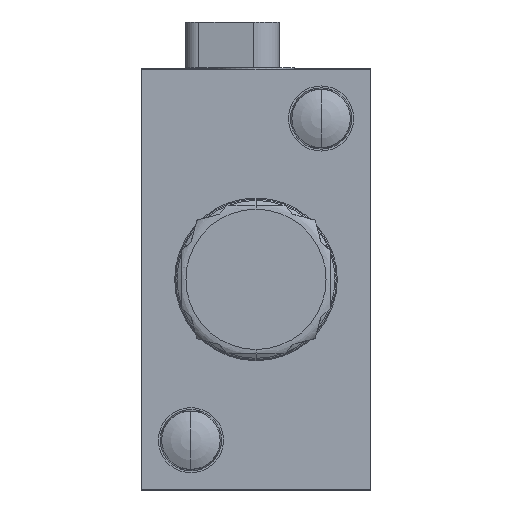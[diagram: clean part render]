
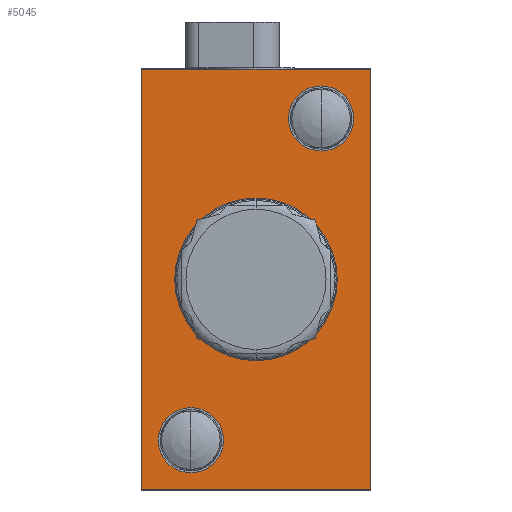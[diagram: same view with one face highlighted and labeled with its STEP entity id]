
A CAD part, front view. The second image highlights one B-rep face of the part: STEP entity #5045.
In plain terms, the highlighted planar face has unit normal (0, -1, 0).
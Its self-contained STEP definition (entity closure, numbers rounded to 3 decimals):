
#1552=DIRECTION('',(1.,0.,0.));
#1553=VECTOR('',#1552,29.8);
#1554=CARTESIAN_POINT('',(-14.9,-61.6,-27.4));
#1555=LINE('',#1554,#1553);
#1556=DIRECTION('',(0.,0.,-1.));
#1557=VECTOR('',#1556,54.8);
#1558=CARTESIAN_POINT('',(-14.9,-61.6,27.4));
#1559=LINE('',#1558,#1557);
#1560=DIRECTION('',(-1.,0.,0.));
#1561=VECTOR('',#1560,29.8);
#1562=CARTESIAN_POINT('',(14.9,-61.6,27.4));
#1563=LINE('',#1562,#1561);
#1564=DIRECTION('',(0.,0.,1.));
#1565=VECTOR('',#1564,54.8);
#1566=CARTESIAN_POINT('',(14.9,-61.6,-27.4));
#1567=LINE('',#1566,#1565);
#1568=CARTESIAN_POINT('',(-8.5,-61.6,-21.));
#1569=DIRECTION('',(0.,1.,0.));
#1570=DIRECTION('',(0.,0.,-1.));
#1571=AXIS2_PLACEMENT_3D('',#1568,#1569,#1570);
#1573=CARTESIAN_POINT('',(-8.5,-61.6,-21.));
#1574=DIRECTION('',(0.,1.,0.));
#1575=DIRECTION('',(0.,0.,1.));
#1576=AXIS2_PLACEMENT_3D('',#1573,#1574,#1575);
#1578=CARTESIAN_POINT('',(8.5,-61.6,21.));
#1579=DIRECTION('',(0.,1.,0.));
#1580=DIRECTION('',(0.,0.,-1.));
#1581=AXIS2_PLACEMENT_3D('',#1578,#1579,#1580);
#1583=CARTESIAN_POINT('',(8.5,-61.6,21.));
#1584=DIRECTION('',(0.,1.,0.));
#1585=DIRECTION('',(0.,0.,1.));
#1586=AXIS2_PLACEMENT_3D('',#1583,#1584,#1585);
#1588=CARTESIAN_POINT('',(0.,-61.6,0.));
#1589=DIRECTION('',(0.,-1.,0.));
#1590=DIRECTION('',(0.,0.,-1.));
#1591=AXIS2_PLACEMENT_3D('',#1588,#1589,#1590);
#1593=CARTESIAN_POINT('',(0.,-61.6,0.));
#1594=DIRECTION('',(0.,-1.,0.));
#1595=DIRECTION('',(0.,0.,1.));
#1596=AXIS2_PLACEMENT_3D('',#1593,#1594,#1595);
#2628=CARTESIAN_POINT('',(-14.9,-61.6,-27.4));
#2629=CARTESIAN_POINT('',(14.9,-61.6,-27.4));
#2630=VERTEX_POINT('',#2628);
#2631=VERTEX_POINT('',#2629);
#2632=CARTESIAN_POINT('',(14.9,-61.6,27.4));
#2633=VERTEX_POINT('',#2632);
#2634=CARTESIAN_POINT('',(-14.9,-61.6,27.4));
#2635=VERTEX_POINT('',#2634);
#2674=CARTESIAN_POINT('',(-8.5,-61.6,-25.25));
#2675=CARTESIAN_POINT('',(-8.5,-61.6,-16.75));
#2676=VERTEX_POINT('',#2674);
#2677=VERTEX_POINT('',#2675);
#2692=CARTESIAN_POINT('',(8.5,-61.6,16.75));
#2693=CARTESIAN_POINT('',(8.5,-61.6,25.25));
#2694=VERTEX_POINT('',#2692);
#2695=VERTEX_POINT('',#2693);
#3104=CARTESIAN_POINT('',(0.,-61.6,-2.5));
#3105=CARTESIAN_POINT('',(0.,-61.6,2.5));
#3106=VERTEX_POINT('',#3104);
#3107=VERTEX_POINT('',#3105);
#5016=CARTESIAN_POINT('',(0.,-61.6,0.));
#5017=DIRECTION('',(0.,-1.,0.));
#5018=DIRECTION('',(1.,0.,0.));
#5019=AXIS2_PLACEMENT_3D('',#5016,#5017,#5018);
#5020=PLANE('',#5019);
#5021=ORIENTED_EDGE('',*,*,#4953,.F.);
#5022=ORIENTED_EDGE('',*,*,#4977,.F.);
#5023=ORIENTED_EDGE('',*,*,#4991,.F.);
#5024=ORIENTED_EDGE('',*,*,#5010,.F.);
#5025=EDGE_LOOP('',(#5021,#5022,#5023,#5024));
#5026=FACE_OUTER_BOUND('',#5025,.F.);
#5028=ORIENTED_EDGE('',*,*,#5027,.F.);
#5030=ORIENTED_EDGE('',*,*,#5029,.F.);
#5031=EDGE_LOOP('',(#5028,#5030));
#5032=FACE_BOUND('',#5031,.F.);
#5034=ORIENTED_EDGE('',*,*,#5033,.F.);
#5036=ORIENTED_EDGE('',*,*,#5035,.F.);
#5037=EDGE_LOOP('',(#5034,#5036));
#5038=FACE_BOUND('',#5037,.F.);
#5040=ORIENTED_EDGE('',*,*,#5039,.T.);
#5042=ORIENTED_EDGE('',*,*,#5041,.T.);
#5043=EDGE_LOOP('',(#5040,#5042));
#5044=FACE_BOUND('',#5043,.F.);
#5045=ADVANCED_FACE('',(#5026,#5032,#5038,#5044),#5020,.T.);
#1572=CIRCLE('',#1571,4.25);
#1577=CIRCLE('',#1576,4.25);
#1582=CIRCLE('',#1581,4.25);
#1587=CIRCLE('',#1586,4.25);
#1592=CIRCLE('',#1591,2.5);
#1597=CIRCLE('',#1596,2.5);
#4953=EDGE_CURVE('',#2630,#2631,#1555,.T.);
#4977=EDGE_CURVE('',#2635,#2630,#1559,.T.);
#4991=EDGE_CURVE('',#2633,#2635,#1563,.T.);
#5010=EDGE_CURVE('',#2631,#2633,#1567,.T.);
#5027=EDGE_CURVE('',#2676,#2677,#1572,.T.);
#5029=EDGE_CURVE('',#2677,#2676,#1577,.T.);
#5033=EDGE_CURVE('',#2694,#2695,#1582,.T.);
#5035=EDGE_CURVE('',#2695,#2694,#1587,.T.);
#5039=EDGE_CURVE('',#3106,#3107,#1592,.T.);
#5041=EDGE_CURVE('',#3107,#3106,#1597,.T.);
